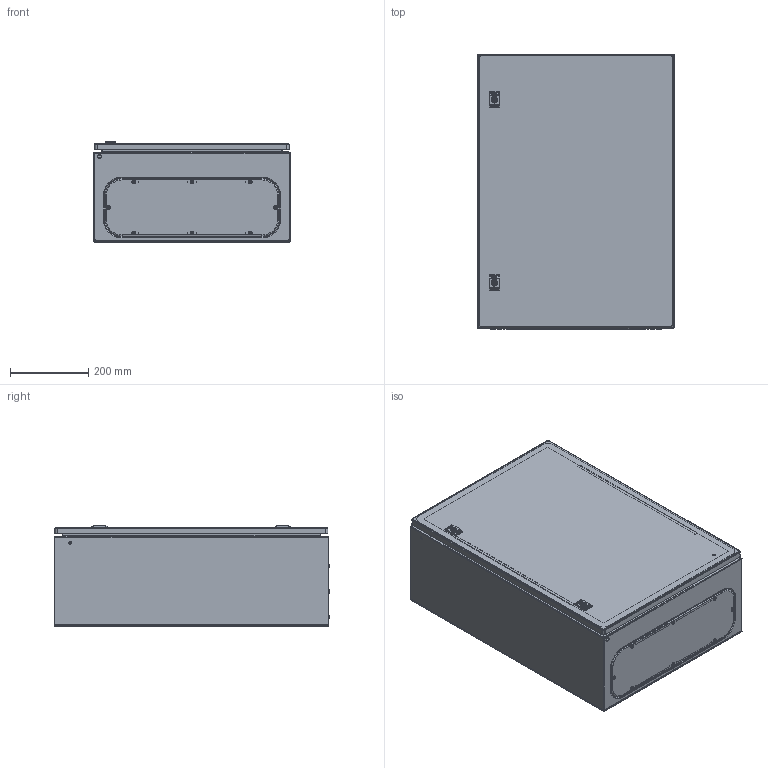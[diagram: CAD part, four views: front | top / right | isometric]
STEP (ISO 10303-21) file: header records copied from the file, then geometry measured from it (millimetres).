
FILE_DESCRIPTION((''),'2;1');
FILE_NAME('NSYCRN75250-3D_ASM','2024-01-11T11:52:38',('SESA6369'),('Schneider-Electric'),'CREO PARAMETRIC BY PTC INC, 2021284','CREO PARAMETRIC BY PTC INC, 2021284','');
FILE_SCHEMA(('AP242_MANAGED_MODEL_BASED_3D_ENGINEERING_MIM_LF { 1 0 10303 442 1 1 4 }'));
Products named in the file (27): 2302812601; 2407140001; 280226000101; 2802230000; 6305012601_ASM; CRN-BODY-7525_ASM; 2102151601; 5100570000; 2802230001; 2702450201; CRN75; 5101200000; DOOR-75-CRN_ASM; CRN-DOOR-75_ASM; 5361660000_MIG33; 5305430001; 5307520001; 8112014011_MIG33; 530546000101; 670221000001_AF10_ASM; CRN-LOCK-1PT_AF10_ASM; 670221000001_AF11_ASM; CRN-LOCK-1PT_AF11_ASM; 2200640401; NVE5833001; CRN-GLAND-PLATE-417_ASM; NSYCRN75250-3D_ASM
Assembly tree (45 placements, depth 4):
  NSYCRN75250-3D_ASM
    CRN-BODY-7525_ASM
      6305012601_ASM
        2302812601
        2407140001
        280226000101  x4
        2802230000  x2
    CRN-DOOR-75_ASM
      DOOR-75-CRN_ASM
        2102151601
        5100570000  x2
        2802230001
        2702450201  x2
        CRN75
        5101200000  x2
    CRN-LOCK-1PT_AF10_ASM
      670221000001_AF10_ASM
        5361660000_MIG33
        5305430001
        5307520001
        8112014011_MIG33
        530546000101
    CRN-LOCK-1PT_AF11_ASM
      670221000001_AF11_ASM
        5361660000_MIG33
        5305430001
        5307520001
        8112014011_MIG33
        530546000101
    CRN-GLAND-PLATE-417_ASM
      2200640401
      NVE5833001  x8
Bounding box: 500 x 703.33 x 257.11 mm (x, y, z)
Volume: 2074054.1 mm3; surface area: 3048176.4 mm2
Topology: 36 solids, 36 shells, 4031 faces, 10414 edges, 6504 vertices
Faces by surface type: plane 1913, cylinder 660, cone 456, bspline 338, extrusion 300, torus 244, sphere 116, revolution 4
Entity records: 89833 total; most frequent: CARTESIAN_POINT 23737, ORIENTED_EDGE 9450, DIRECTION 8628, PRESENTATION_STYLE_ASSIGNMENT 5506, STYLED_ITEM 5313, EDGE_CURVE 4725, CURVE_STYLE 4521, VERTEX_POINT 2948
